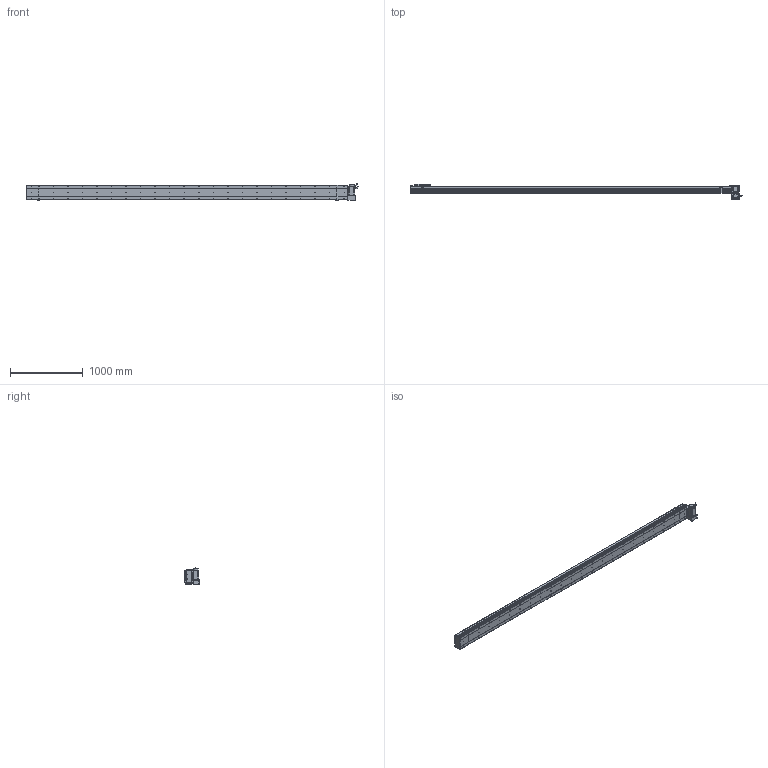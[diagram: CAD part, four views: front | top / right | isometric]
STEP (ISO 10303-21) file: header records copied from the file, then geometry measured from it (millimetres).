
FILE_DESCRIPTION (( 'STEP AP214' ), '1' );
FILE_NAME ('D20 CBH RU S4100.STEP', '2010-06-30T11:22:30', ( 'Conseil Régional Haute-Normandie' ), ( 'Conseil Régional Haute-Normandie' ), 'SwSTEP 2.0', 'SolidWorks 2010', '' );
FILE_SCHEMA (( 'AUTOMOTIVE_DESIGN' ));
Length unit declared in the file: millimetre
Products named in the file (31): Plaque de Bout Tail D20_Default; Couvercle_Default; Corp Tail D20+100_Default; vis M5 L15_Default; Plaque De Serrage D20_Default; Tail D20+100_Default; Couvercle S4100_Default; Corp S4100_Default; Corp D20 S4100_Default; D20 CBH RU S4100; Support moteur RU_Default; Plaque de Bout Head D20 RU_Default; Head RU_Default; Plaque De Serrage D20 RU_Default; Couvercle RU_Default; Corp Tail D20 RU_Default; Moteur motionking 90BLDC125A-640; Rondelle Cache D20 RU_Default; Cache Support Moteur RU_Default; codeur 90BLDC125-640; corps 90BLDC125A-640; avant 90BLDC125A-640; vis M5 L30_Default; Conecteur_Default; Conecteur2_Default; Chariot D20_Default; vis M5 L47_Default; ecrou_Default; Glissiere_Default; Support Chariot D20_Default
Assembly tree (66 placements, depth 4):
  D20 CBH RU S4100
    Chariot D20_Default
      vis M5 L15_Default  x8
      Glissiere_Default
      Chariot D20_Default
      Support Chariot D20_Default
    Tail D20+100_Default
      vis M5 L15_Default  x6
      Plaque De Serrage D20_Default
      Couvercle_Default
      Corp Tail D20+100_Default
      Plaque de Bout Tail D20_Default
    Corp D20 S4100_Default
      Couvercle S4100_Default
      Corp S4100_Default
    Head RU_Default
      Corp Tail D20 RU_Default
      vis M5 L15_Default  x12
      ecrou_Default  x4
      Rondelle Cache D20 RU_Default  x3
      vis M5 L30_Default  x4
      Plaque de Bout Head D20 RU_Default
      vis M5 L47_Default  x4
      Cache Support Moteur RU_Default
      Moteur motionking 90BLDC125A-640
        corps 90BLDC125A-640
        Conecteur_Default
        Conecteur2_Default
        avant 90BLDC125A-640
        codeur 90BLDC125-640
      Couvercle RU_Default
      Plaque De Serrage D20 RU_Default
      Support moteur RU_Default
Bounding box: 4564.45 x 209 x 229.7 mm (x, y, z)
Volume: 30189795.2 mm3; surface area: 5747357.3 mm2
Topology: 103 solids, 103 shells, 3871 faces, 9614 edges, 6250 vertices
Faces by surface type: plane 2132, bspline 806, cylinder 770, torus 91, cone 68, sphere 4
Entity records: 162214 total; most frequent: CARTESIAN_POINT 82773, ORIENTED_EDGE 15696, DIRECTION 12162, EDGE_CURVE 7848, VERTEX_POINT 5194, LINE 5020, VECTOR 5020, AXIS2_PLACEMENT_3D 3571
